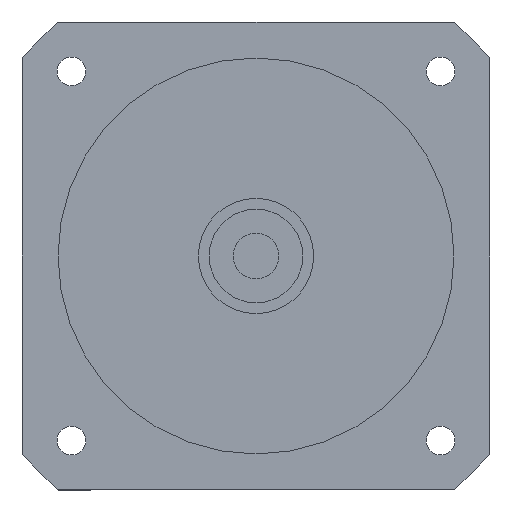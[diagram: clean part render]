
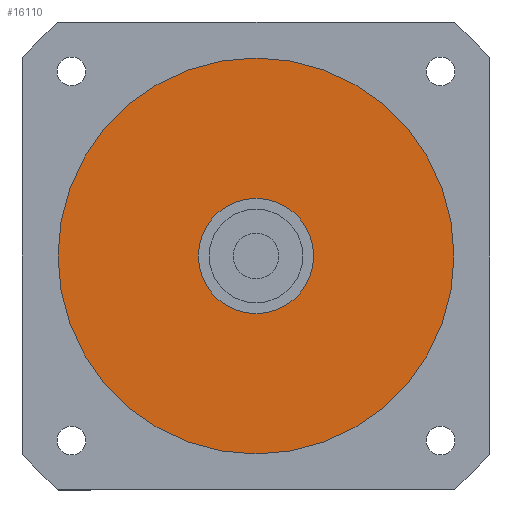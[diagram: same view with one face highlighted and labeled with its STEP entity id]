
A CAD part, left-side view. The second image highlights one B-rep face of the part: STEP entity #16110.
In plain terms, the highlighted planar face has unit normal (-1, 0, 0) as drawn and (0, 0, -1) by its records, which use the part's own axes.
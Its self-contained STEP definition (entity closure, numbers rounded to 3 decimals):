
#15680=CARTESIAN_POINT('',(0.,0.,
-129.));
#15690=DIRECTION('',(0.,0.,1.));
#15700=DIRECTION('',(-1.,0.,0.));
#15710=AXIS2_PLACEMENT_3D('',#15680,#15690,#15700);
#15720=PLANE('',#15710);
#15730=CARTESIAN_POINT('',(0.,0.,
-129.));
#15740=DIRECTION('',(0.,0.,1.));
#15750=DIRECTION('',(0.,-1.,0.));
#15760=AXIS2_PLACEMENT_3D('',#15730,#15740,#15750);
#15770=CIRCLE('',#15760,55.);
#15780=CARTESIAN_POINT('',(0.,-55.,-129.));
#15790=VERTEX_POINT('',#15780);
#15800=CARTESIAN_POINT('',(55.,0.,-129.));
#15810=VERTEX_POINT('',#15800);
#15820=EDGE_CURVE('',#15790,#15810,#15770,.T.);
#15830=ORIENTED_EDGE('',*,*,#15820,.F.);
#15840=CARTESIAN_POINT('',(-55.,0.,-129.));
#15850=VERTEX_POINT('',#15840);
#15860=EDGE_CURVE('',#15810,#15850,#15770,.T.);
#15870=ORIENTED_EDGE('',*,*,#15860,.F.);
#15880=EDGE_CURVE('',#15850,#15790,#15770,.T.);
#15890=ORIENTED_EDGE('',*,*,#15880,.F.);
#15900=EDGE_LOOP('',(#15890,#15870,#15830));
#15910=FACE_OUTER_BOUND('',#15900,.T.);
#15920=CARTESIAN_POINT('',(0.,0.,
-129.));
#15930=DIRECTION('',(0.,0.,1.));
#15940=DIRECTION('',(0.,-1.,0.));
#15950=AXIS2_PLACEMENT_3D('',#15920,#15930,#15940);
#15960=CIRCLE('',#15950,16.);
#15970=CARTESIAN_POINT('',(16.,0.,-129.));
#15980=VERTEX_POINT('',#15970);
#15990=CARTESIAN_POINT('',(-16.,0.,-129.));
#16000=VERTEX_POINT('',#15990);
#16010=EDGE_CURVE('',#15980,#16000,#15960,.T.);
#16020=ORIENTED_EDGE('',*,*,#16010,.T.);
#16030=CARTESIAN_POINT('',(0.,-16.,-129.));
#16040=VERTEX_POINT('',#16030);
#16050=EDGE_CURVE('',#16040,#15980,#15960,.T.);
#16060=ORIENTED_EDGE('',*,*,#16050,.T.);
#16070=EDGE_CURVE('',#16000,#16040,#15960,.T.);
#16080=ORIENTED_EDGE('',*,*,#16070,.T.);
#16090=EDGE_LOOP('',(#16080,#16060,#16020));
#16100=FACE_BOUND('',#16090,.T.);
#16110=ADVANCED_FACE('',(#15910,#16100),#15720,.F.);
